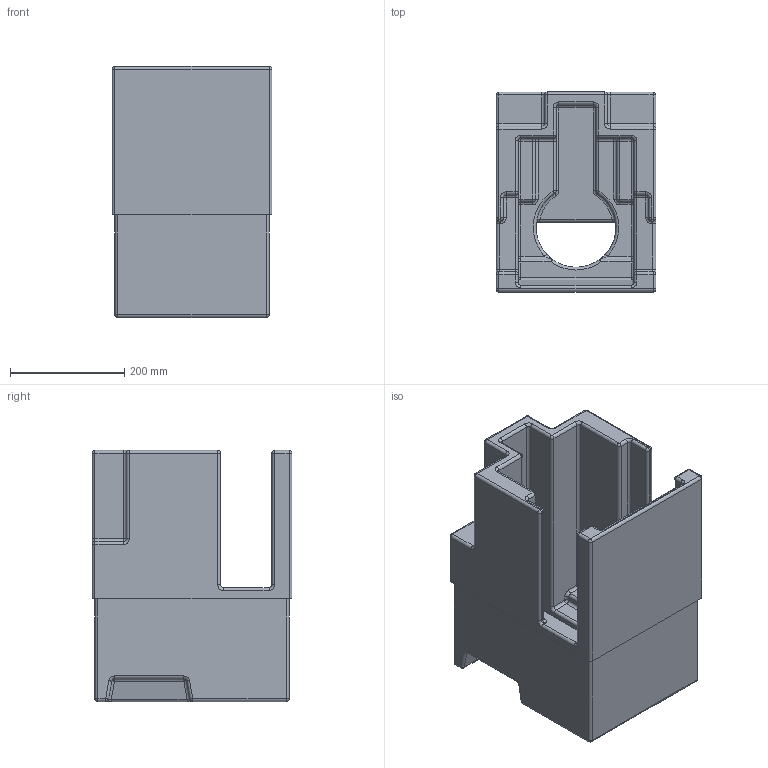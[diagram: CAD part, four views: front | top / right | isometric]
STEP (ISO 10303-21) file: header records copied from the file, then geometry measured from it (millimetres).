
FILE_DESCRIPTION((''),'2;1');
FILE_NAME('GLP-17348','2025-06-26T11:45:59',('LeovomKolke'),(''),'CREO PARAMETRIC BY PTC INC, 2024133','CREO PARAMETRIC BY PTC INC, 2024133','');
FILE_SCHEMA(('AUTOMOTIVE_DESIGN { 1 0 10303 214 1 1 1 1 }'));
Length unit declared in the file: millimetre
Products named in the file (1): GLP-17348
Bounding box: 280 x 350 x 440 mm (x, y, z)
Volume: 16104486.1 mm3; surface area: 1060235.4 mm2
Topology: 1 solids, 1 shells, 327 faces, 709 edges, 384 vertices
Faces by surface type: cylinder 157, plane 58, sphere 54, torus 32, bspline 26
Entity records: 15491 total; most frequent: CARTESIAN_POINT 4157, DIRECTION 1619, ORIENTED_EDGE 1418, PRESENTATION_STYLE_ASSIGNMENT 872, STYLED_ITEM 740, CURVE_STYLE 715, EDGE_CURVE 709, AXIS2_PLACEMENT_3D 645
